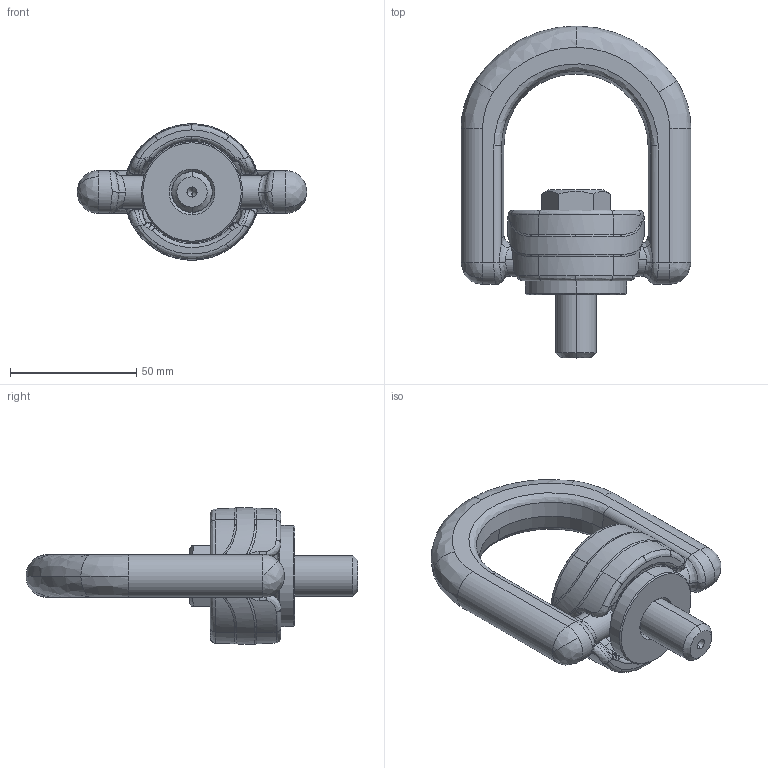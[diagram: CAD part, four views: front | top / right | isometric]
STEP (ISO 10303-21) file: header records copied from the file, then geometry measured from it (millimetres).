
FILE_DESCRIPTION (( 'STEP AP203' ), '1' );
FILE_NAME ('Z101716.step', '2016-04-04T11:08:11', ( '' ), ( '' ), 'SwSTEP 2.0', 'SolidWorks 2008', '' );
FILE_SCHEMA (( 'CONFIG_CONTROL_DESIGN' ));
Length unit declared in the file: millimetre
Products named in the file (6): Z101716; Z776042; Z768072; Z768027_SMITT; Z768658; Z7681216
Assembly tree (5 placements, depth 2):
  Z101716
    Z776042
    Z7681216
    Z768072
    Z768658
    Z768027_SMITT
Bounding box: 91 x 131.4 x 54 mm (x, y, z)
Volume: 126798.1 mm3; surface area: 36149 mm2
Topology: 5 solids, 5 shells, 405 faces, 985 edges, 588 vertices
Faces by surface type: bspline 263, cylinder 61, plane 55, cone 25, torus 1
Entity records: 30268 total; most frequent: CARTESIAN_POINT 22555, ORIENTED_EDGE 1950, EDGE_CURVE 975, DIRECTION 858, VERTEX_POINT 588, B_SPLINE_CURVE_WITH_KNOTS 457, EDGE_LOOP 417, FACE_OUTER_BOUND 405
